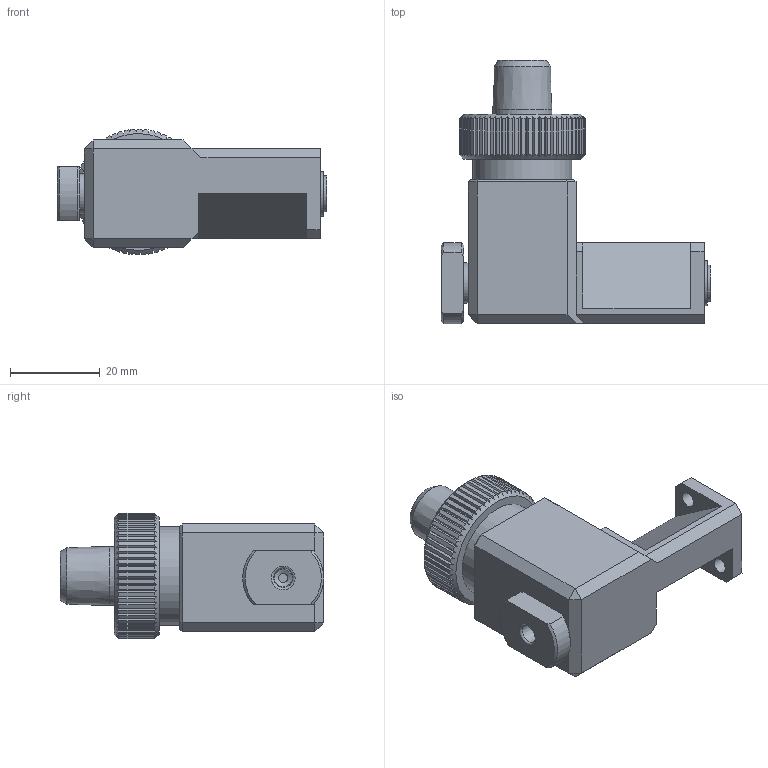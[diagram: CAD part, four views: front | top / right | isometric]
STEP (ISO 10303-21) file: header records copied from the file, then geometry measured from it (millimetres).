
FILE_DESCRIPTION (( 'STEP AP214' ), '1' );
FILE_NAME ('PCPM-310-B.STEP', '2024-10-14T09:57:56', ( '' ), ( '' ), 'SwSTEP 2.0', 'SolidWorks 2024', '' );
FILE_SCHEMA (( 'AUTOMOTIVE_DESIGN' ));
Length unit declared in the file: millimetre
Products named in the file (1): PCPM-310-B
Bounding box: 60 x 58.57 x 28 mm (x, y, z)
Volume: 30830.9 mm3; surface area: 13948.1 mm2
Topology: 3 solids, 3 shells, 301 faces, 802 edges, 526 vertices
Faces by surface type: plane 186, cylinder 92, cone 22, bspline 1
Full cylindrical faces by diameter (mm): 1 x1, 2 x2, 3.5 x2, 4 x3, 5.2 x1, 6 x1, 6.6 x2, 6.8 x1, 8 x3, 9 x2, 10 x3, 10.2 x1, 13.157 x1, 14 x1, 14.8 x1, 18 x1, 18.2 x2, 18.4 x1, 22 x1
Entity records: 9449 total; most frequent: CARTESIAN_POINT 2491, ORIENTED_EDGE 1480, DIRECTION 1287, EDGE_CURVE 740, VERTEX_POINT 512, AXIS2_PLACEMENT_3D 502, EDGE_LOOP 380, FACE_OUTER_BOUND 332
